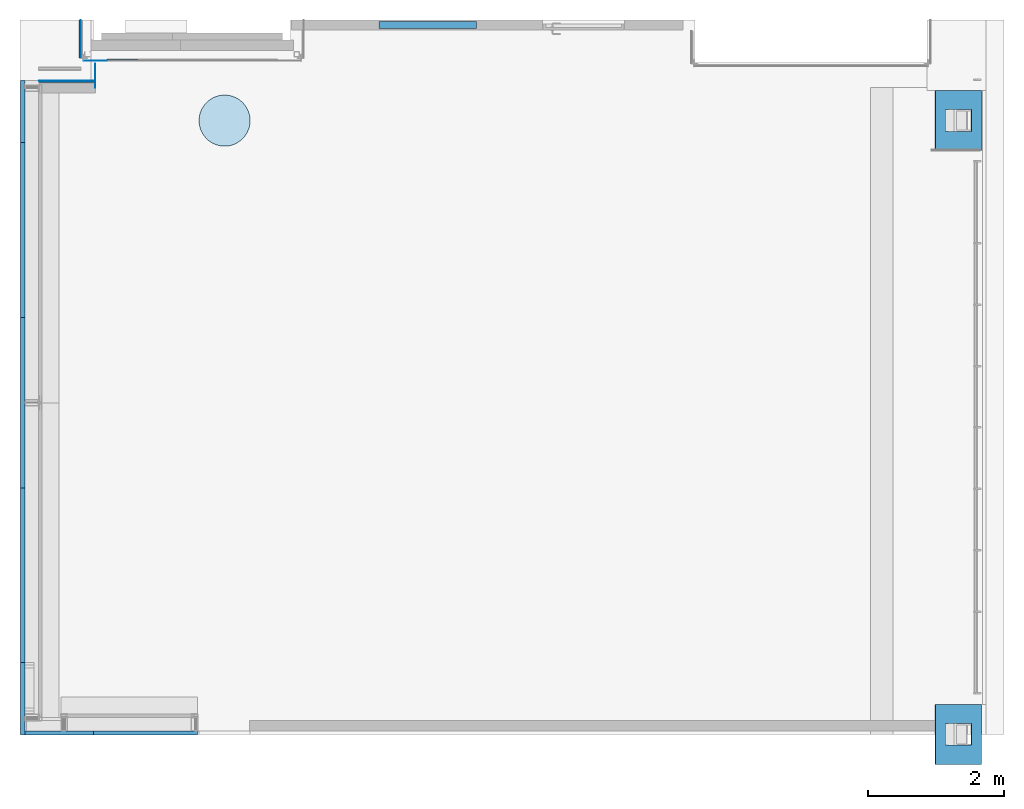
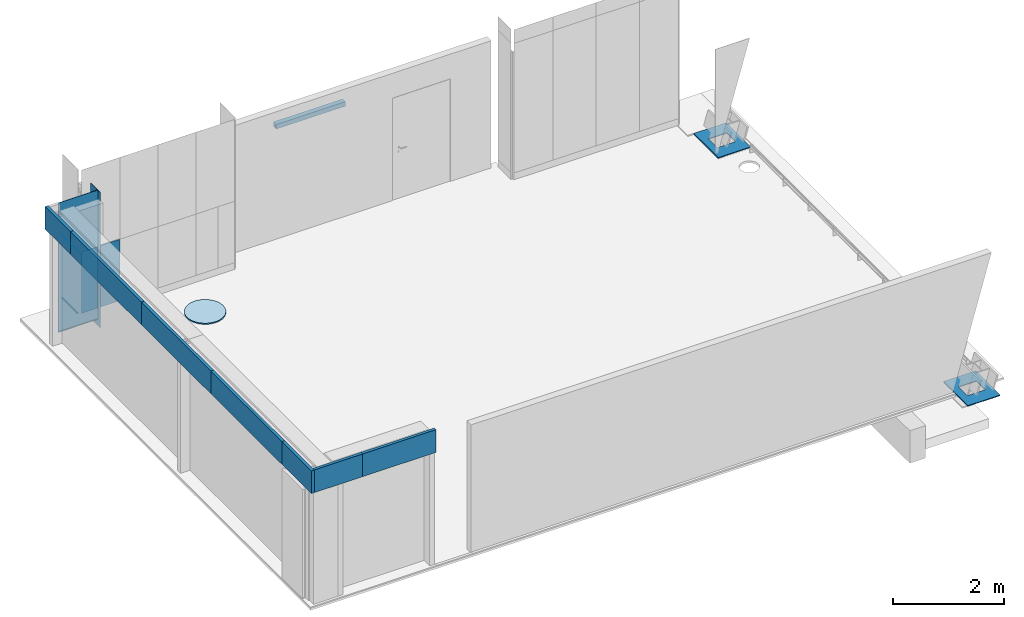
# One storey, part 4 of 14: 11 plates, 3 members, 2 columns, 1 beam, 1 slab, 23 openings, 7 elements without a shape of their own.
"""IFC2X3 building model written with IfcOpenShell, lengths in millimetres."""

from ifc_helpers import new_model, entity, si_unit, converted_unit, derived_unit, direction, frame, frame_2d, origin, origin_with_axes, origin_2d_with_axis, place, context, subcontext, project, spatial, rectangle, circle, extrude, boolean, faceted_brep, source, transform, mapped, material, layer, layer_set, layer_usage, type_object, element, aggregate, save


model = new_model("IFC2X3")

# Units and contexts
model_context = context("Model", 3, precision=0.01, world=frame((0.0, 4.29681676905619e-09, 0.0)), true_north=direction((4.01073788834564e-13, 1.0)))
plan_context = context("Plan", 3, precision=0.01, world=frame((0.0, 4.29681676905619e-09, 0.0)), true_north=direction((4.01073788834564e-13, 1.0)))
body_context = subcontext(model_context, "Body", "Model", "MODEL_VIEW")
ifc_project = project(units=[converted_unit("PLANEANGLEUNIT", "DEGREE", entity("IfcPositiveLengthMeasure", 0.0174532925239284), si_unit("PLANEANGLEUNIT", "RADIAN"), dimensions=[0, 0, 0, 0, 0, 0, 0]), si_unit("AREAUNIT", "SQUARE_METRE"), si_unit("LENGTHUNIT", "METRE", prefix="MILLI"), si_unit("MASSUNIT", "GRAM", prefix="KILO"), si_unit("POWERUNIT", "WATT"), si_unit("PRESSUREUNIT", "PASCAL"), si_unit("FORCEUNIT", "NEWTON", prefix="KILO"), si_unit("ELECTRICVOLTAGEUNIT", "VOLT"), si_unit("ELECTRICCURRENTUNIT", "AMPERE"), si_unit("THERMODYNAMICTEMPERATUREUNIT", "DEGREE_CELSIUS"), si_unit("TIMEUNIT", "SECOND"), si_unit("VOLUMEUNIT", "CUBIC_METRE"), derived_unit("LINEARVELOCITYUNIT", [(si_unit("LENGTHUNIT", "METRE"), 1), (si_unit("TIMEUNIT", "SECOND"), -1)]), derived_unit("VOLUMETRICFLOWRATEUNIT", [(si_unit("VOLUMEUNIT", "CUBIC_METRE"), 1), (si_unit("TIMEUNIT", "SECOND"), -1)]), derived_unit("THERMALTRANSMITTANCEUNIT", [(si_unit("POWERUNIT", "WATT"), 1), (si_unit("THERMODYNAMICTEMPERATUREUNIT", "KELVIN"), -1), (si_unit("AREAUNIT", "SQUARE_METRE"), -1)]), derived_unit("SOUNDPRESSUREUNIT", [(si_unit("PRESSUREUNIT", "PASCAL"), 1)])], contexts=[model_context, plan_context])

# Site, building, storey
site_placement = place(None, origin_with_axes())
site = spatial("IfcSite", under=ifc_project, at=site_placement, Name="ENGM", CompositionType="ELEMENT")
building_placement = place(site_placement, origin_with_axes())
building = spatial("IfcBuilding", under=site, at=building_placement, Name="TI", CompositionType="ELEMENT")
storey_placement = place(building_placement, frame((0.0, 0.0, 210900.0), z_axis=(0.0, 0.0, 1.0), x_axis=(1.0, 0.0, 0.0)))
storey = spatial("IfcBuildingStorey", under=building, at=storey_placement, Name="Nivå F", CompositionType="ELEMENT", Elevation=210900.0)

# Columns
ifc_material_1 = material(Name="<Unnamed>")
column_type_1 = type_object("IfcColumnType", Name="B220 - Søylefot - Primærdragere - PirNord1:B220 - Søylefot - Primærdragere - PirNord - h=470", PredefinedType="COLUMN", material=ifc_material_1)
shared_shape_1 = source(origin(), body_context, "Body", "Brep", [
    faceted_brep([(611946.295628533, 698160.163867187, 210882.0), (611567.384546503, 698160.163867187, 210882.0), (611567.384546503, 697840.163867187, 210882.0), (611946.295628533, 697840.163867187, 210882.0), (612093.304846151, 698440.163867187, 210882.0), (612093.304846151, 697560.163867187, 210882.0), (611420.375328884, 697560.163867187, 210882.0), (611420.375328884, 698440.163867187, 210882.0), (611425.198414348, 697560.163867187, 210900.0), (612098.127931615, 697560.163867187, 210900.0), (611425.198414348, 698440.163867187, 210900.0), (612098.127931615, 698440.163867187, 210900.0), (611572.207631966, 697840.163867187, 210900.0), (611951.118713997, 697840.163867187, 210900.0), (611572.207631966, 698160.163867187, 210900.0), (611951.118713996, 698160.163867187, 210900.0)], [[[0, 1, 2, 3], [4, 5, 6, 7]], [[8, 6, 5, 9]], [[4, 7, 10, 11]], [[6, 8, 10, 7]], [[2, 12, 13, 3]], [[1, 14, 12, 2]], [[14, 15, 13, 12], [8, 9, 11, 10]], [[9, 5, 4, 11]], [[0, 15, 14, 1]], [[3, 13, 15, 0]]], outer=[[False, True], [True], [True], [True], [True], [True], [False, True], [True], [True], [True]]),
])
column_1_placement = place(storey_placement, frame((0.0, 0.0, -210900.0), z_axis=(0.0, 0.0, 1.0), x_axis=(1.0, 0.0, 0.0)))
element("IfcColumn", 1, at=column_1_placement, inside=storey, type_object=column_type_1, material=ifc_material_1, Name="B220 - Søylefot - Primærdragere - PirNord1:B220 - Søylefot - Primærdragere - PirNord - h=470", ObjectType="B220 - Søylefot - Primærdragere - PirNord1:B220 - Søylefot - Primærdragere - PirNord - h=470", context=body_context, shape_type="MappedRepresentation", body=[
    mapped(shared_shape_1, transform((0.0, 0.0, 0.0), scale=1.0)),
])
column_type_2 = type_object("IfcColumnType", Name="B220 - Søylefot - Primærdragere - PirNord1:B220 - Søylefot - Primærdragere - PirNord - h=470", PredefinedType="COLUMN", material=ifc_material_1)
shared_shape_2 = source(origin(), body_context, "Body", "Brep", [
    faceted_brep([(611946.295628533, 689160.163867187, 210882.0), (611567.384546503, 689160.163867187, 210882.0), (611567.384546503, 688840.163867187, 210882.0), (611946.295628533, 688840.163867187, 210882.0), (612093.304846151, 689440.163867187, 210882.0), (612093.304846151, 688560.163867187, 210882.0), (611420.375328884, 688560.163867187, 210882.0), (611420.375328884, 689440.163867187, 210882.0), (611425.198414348, 688560.163867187, 210900.0), (612098.127931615, 688560.163867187, 210900.0), (611425.198414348, 689440.163867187, 210900.0), (612098.127931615, 689440.163867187, 210900.0), (611572.207631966, 688840.163867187, 210900.0), (611951.118713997, 688840.163867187, 210900.0), (611572.207631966, 689160.163867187, 210900.0), (611951.118713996, 689160.163867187, 210900.0)], [[[0, 1, 2, 3], [4, 5, 6, 7]], [[8, 6, 5, 9]], [[4, 7, 10, 11]], [[6, 8, 10, 7]], [[2, 12, 13, 3]], [[1, 14, 12, 2]], [[14, 15, 13, 12], [8, 9, 11, 10]], [[9, 5, 4, 11]], [[0, 15, 14, 1]], [[3, 13, 15, 0]]], outer=[[False, True], [True], [True], [True], [True], [True], [False, True], [True], [True], [True]]),
])
column_2_placement = place(storey_placement, frame((0.0, 0.0, -210900.0), z_axis=(0.0, 0.0, 1.0), x_axis=(1.0, 0.0, 0.0)))
element("IfcColumn", 2, at=column_2_placement, inside=storey, type_object=column_type_2, material=ifc_material_1, Name="B220 - Søylefot - Primærdragere - PirNord1:B220 - Søylefot - Primærdragere - PirNord - h=470", ObjectType="B220 - Søylefot - Primærdragere - PirNord1:B220 - Søylefot - Primærdragere - PirNord - h=470", context=body_context, shape_type="MappedRepresentation", body=[
    mapped(shared_shape_2, transform((0.0, 0.0, 0.0), scale=1.0)),
])

# Curtain wall, member
curtain_wall_type_1 = type_object("IfcCurtainWallType", Name="Curtain Wall:A245 - IGK - Glass Kledning", PredefinedType="NOTDEFINED")
curtain_wall_1_placement = place(storey_placement, frame((0.0, 0.0, -210900.0), z_axis=(0.0, 0.0, 1.0), x_axis=(1.0, 0.0, 0.0)))
curtain_wall_1 = element("IfcCurtainWall", 3, at=curtain_wall_1_placement, inside=storey, type_object=curtain_wall_type_1, Name="Curtain Wall:A245 - IGK - Glass Kledning", ObjectType="Curtain Wall:A245 - IGK - Glass Kledning")
ifc_material_2 = material(Name="Fuge transparent")
member_type_1 = type_object("IfcMemberType", Name="Rectangular Mullion:A241 - 10 mm fuge", PredefinedType="MULLION", material=ifc_material_2)
shared_shape_3 = source(origin(), body_context, "Body", "SweptSolid", [
    extrude(rectangle(XDim=19.9999999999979, YDim=10.0, at=origin_2d_with_axis()), frame((0.0, 10.0, -823.003222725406), z_axis=(0.0, 0.0, 1.0), x_axis=(0.0, 1.0, 0.0)), (0.0, 0.0, 1.0), 823.003222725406),
])
member_1_placement = place(curtain_wall_1_placement, frame((599102.003222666, 698584.999999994, 211055.0), z_axis=(1.0, 0.0, 0.0), x_axis=(0.0, 0.0, 1.0)))
member_1 = element("IfcMember", 4, at=member_1_placement, type_object=member_type_1, material=ifc_material_2, Name="Rectangular Mullion:A241 - 10 mm fuge", ObjectType="Rectangular Mullion:A241 - 10 mm fuge", context=body_context, shape_type="MappedRepresentation", body=[
    mapped(shared_shape_3, transform((0.0, 0.0, 0.0), scale=1.0)),
])

# Beam
ifc_material_3 = material(Name="_NSW Stål")
beam_type = type_object("IfcBeamType", Name="B223 - Bjelke - HUP:B223 - HUP - 100 x 100 x 5 mm", PredefinedType="BEAM")
beam_placement = place(storey_placement, frame((603263.006959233, 699400.499999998, 2500.0), z_axis=(0.0, 0.0, 1.0), x_axis=(1.0, 0.0, 0.0)))
element("IfcBeam", 5, at=beam_placement, inside=storey, type_object=beam_type, material=ifc_material_3, Name="B223 - Bjelke - HUP:B223 - HUP - 100 x 100 x 5 mm", ObjectType="B223 - Bjelke - HUP:B223 - HUP - 100 x 100 x 5 mm", context=body_context, shape_type="SweptSolid", body=[
    boolean("DIFFERENCE", extrude(rectangle(XDim=99.9999999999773, YDim=100.000000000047, at=origin_2d_with_axis()), frame((0.0, 0.0, -50.0), z_axis=(1.0, 0.0, 0.0), x_axis=(0.0, 0.0, -1.0)), (0.0, 0.0, 1.0), 1434.98989665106), extrude(rectangle(XDim=89.9999999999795, YDim=90.0000000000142, at=frame_2d((6.93027857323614e-11, 1.732658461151e-11), x_axis=(0.0, 1.0))), frame((0.0, 0.0, -50.0), z_axis=(1.0, 0.0, 0.0), x_axis=(0.0, -1.0, 0.0)), (0.0, 0.0, 1.0), 1434.98989665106)),
])

# Curtain wall, member
curtain_wall_type_2 = type_object("IfcCurtainWallType", Name="Curtain Wall:A245 - IMK - Metal Kledning", PredefinedType="NOTDEFINED")
curtain_wall_2_placement = place(storey_placement, frame((0.0, 0.0, -210900.0), z_axis=(0.0, 0.0, 1.0), x_axis=(1.0, 0.0, 0.0)))
curtain_wall_2 = element("IfcCurtainWall", 6, at=curtain_wall_2_placement, inside=storey, type_object=curtain_wall_type_2, Name="Curtain Wall:A245 - IMK - Metal Kledning", ObjectType="Curtain Wall:A245 - IMK - Metal Kledning")
member_type_2 = type_object("IfcMemberType", Name="Rectangular Mullion:A241 - 4 mm fuge - til venstre", PredefinedType="MULLION", material=ifc_material_2)
member_2_placement = place(curtain_wall_2_placement, frame((598892.513867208, 699797.999999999, 212400.0), z_axis=(0.0, 1.0, 0.0), x_axis=(0.0, 0.0, 1.0)))
member_2 = element("IfcMember", 7, at=member_2_placement, type_object=member_type_2, Name="Rectangular Mullion:A241 - 4 mm fuge - til venstre", ObjectType="Rectangular Mullion:A241 - 4 mm fuge - til venstre", context=body_context, shape_type="Brep", body=[
    faceted_brep([(4.0, -2.9999999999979, -322.499999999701), (4.0, 0.0, -322.499999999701), (4.0, 0.0, -879.000000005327), (4.0, -2.9999999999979, -879.000000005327), (-4.44089209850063e-16, 0.0, -322.499999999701), (-4.44089209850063e-16, 0.0, -879.000000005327), (-4.44089209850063e-16, -2.9999999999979, -322.499999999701), (-4.44089209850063e-16, -2.9999999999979, -879.000000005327)], [[[0, 1, 2, 3]], [[1, 4, 5, 2]], [[4, 6, 7, 5]], [[6, 0, 3, 7]], [[3, 2, 5, 7]], [[6, 4, 1, 0]]], orient=[[False], [False], [False], [False], [False], [False]]),
])
aggregate(curtain_wall_2, [member_2])

curtain_wall_3_placement = place(storey_placement, frame((0.0, 0.0, -210900.0), z_axis=(0.0, 0.0, 1.0), x_axis=(1.0, 0.0, 0.0)))
curtain_wall_3 = element("IfcCurtainWall", 8, at=curtain_wall_3_placement, inside=storey, type_object=curtain_wall_type_2, Name="Curtain Wall:A245 - IMK - Metal Kledning", ObjectType="Curtain Wall:A245 - IMK - Metal Kledning")
member_type_3 = type_object("IfcMemberType", Name="Rectangular Mullion:A241 - 10 mm fuge", PredefinedType="MULLION", material=ifc_material_2)
member_3_placement = place(curtain_wall_3_placement, frame((598892.513867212, 698918.99036364, 211050.0), z_axis=(0.0, -1.0, 0.0), x_axis=(0.0, 0.0, 1.0)))
member_3 = element("IfcMember", 9, at=member_3_placement, type_object=member_type_3, Name="Rectangular Mullion:A241 - 10 mm fuge", ObjectType="Rectangular Mullion:A241 - 10 mm fuge", context=body_context, shape_type="Brep", body=[
    faceted_brep([(0.0, 1.04449782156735e-12, -556.509636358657), (-10.0, 1.04449782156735e-12, -556.509636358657), (-10.0, 1.04449782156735e-12, 0.0), (0.0, 1.04449782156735e-12, 0.0), (0.0, 19.999999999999, -556.509636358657), (0.0, 19.999999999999, 0.0), (-10.0, 19.999999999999, -556.509636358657), (-10.0, 19.999999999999, 0.0)], [[[0, 1, 2, 3]], [[4, 0, 3, 5]], [[6, 4, 5, 7]], [[1, 6, 7, 2]], [[3, 2, 7, 5]], [[4, 6, 1, 0]]], orient=[[False], [False], [False], [False], [False], [False]]),
])
aggregate(curtain_wall_3, [member_3])

# Curtain wall, plates
curtain_wall_4_placement = place(storey_placement, frame((0.0, 0.0, -210900.0), z_axis=(0.0, 0.0, 1.0), x_axis=(1.0, 0.0, 0.0)))
curtain_wall_4 = element("IfcCurtainWall", 10, at=curtain_wall_4_placement, inside=storey, type_object=curtain_wall_type_2, Name="Curtain Wall:A245 - IMK - Metal Kledning", ObjectType="Curtain Wall:A245 - IMK - Metal Kledning")
ifc_material_4 = material(Name="T2_Metallkledning_Laserskåret")
plate_type_1 = type_object("IfcPlateType", Name="System Panel:A245 - KL-M02 - Veggkledning aluminium laserskåret mønster", PredefinedType="CURTAIN_PANEL", material=ifc_material_4)
shared_shape_4 = source(origin(), body_context, "Body", "SweptSolid", [
    extrude(rectangle(XDim=3.0, YDim=339.999999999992, at=origin_2d_with_axis()), frame((0.0, -1.5, 0.0), z_axis=(0.0, 0.0, 1.0), x_axis=(0.0, 1.0, 0.0)), (0.0, 0.0, 1.0), 1350.00000000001),
])
plate_1_placement = place(curtain_wall_4_placement, frame((599105.003222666, 698877.999999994, 211050.0), z_axis=(0.0, 0.0, 1.0), x_axis=(1.0, 0.0, 0.0)))
plate_1 = element("IfcPlate", 11, at=plate_1_placement, type_object=plate_type_1, material=ifc_material_4, Name="System Panel:A245 - KL-M02 - Veggkledning aluminium laserskåret mønster", ObjectType="System Panel:A245 - KL-M02 - Veggkledning aluminium laserskåret mønster", context=body_context, shape_type="MappedRepresentation", body=[
    mapped(shared_shape_4, transform((0.0, 0.0, 0.0), scale=1.0)),
])
ifc_material_5 = material(Name="T2_Ventilasjonsrist")
plate_type_2 = type_object("IfcPlateType", Name="System Panel:A245 - KL-M07 - Veggkledning ventilasjonsrist tekniske sjakter", PredefinedType="CURTAIN_PANEL", material=ifc_material_5)
shared_shape_5 = source(origin(), body_context, "Body", "SweptSolid", [
    extrude(rectangle(XDim=30.0, YDim=455.000000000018, at=origin_2d_with_axis()), frame((0.0, 12.0, 0.0), z_axis=(0.0, 0.0, 1.0), x_axis=(0.0, 1.0, 0.0)), (0.0, 0.0, 1.0), 1350.00000000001),
])
plate_2_placement = place(curtain_wall_4_placement, frame((599502.503222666, 698877.999999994, 211050.0), z_axis=(0.0, 0.0, 1.0), x_axis=(1.0, 0.0, 0.0)))
plate_2 = element("IfcPlate", 12, at=plate_2_placement, type_object=plate_type_2, material=ifc_material_5, Name="System Panel:A245 - KL-M07 - Veggkledning ventilasjonsrist tekniske sjakter", ObjectType="System Panel:A245 - KL-M07 - Veggkledning ventilasjonsrist tekniske sjakter", context=body_context, shape_type="MappedRepresentation", body=[
    mapped(shared_shape_5, transform((0.0, 0.0, 0.0), scale=1.0)),
])
aggregate(curtain_wall_4, [plate_1, plate_2])

# Plate
ifc_material_6 = material(Name="Glasskledning, silketrykket(1)")
plate_type_3 = type_object("IfcPlateType", Name="System Panel:A245 - KL-G07.3 - Veggkledning glasspanel", PredefinedType="CURTAIN_PANEL", material=ifc_material_6)
shared_shape_6 = source(origin(), body_context, "Body", "SweptSolid", [
    extrude(rectangle(XDim=10.0, YDim=823.003222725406, at=origin_2d_with_axis()), frame((0.0, -5.0, 0.0), z_axis=(0.0, 0.0, 1.0), x_axis=(0.0, 1.0, 0.0)), (0.0, 0.0, 1.0), 2825.99999999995),
])
plate_3_placement = place(curtain_wall_1_placement, frame((598690.501611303, 698584.999999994, 211060.0), z_axis=(0.0, 0.0, 1.0), x_axis=(1.0, 0.0, 0.0)))
plate_3 = element("IfcPlate", 13, at=plate_3_placement, type_object=plate_type_3, material=ifc_material_6, Name="System Panel:A245 - KL-G07.3 - Veggkledning glasspanel", ObjectType="System Panel:A245 - KL-G07.3 - Veggkledning glasspanel", context=body_context, shape_type="MappedRepresentation", body=[
    mapped(shared_shape_6, transform((0.0, 0.0, 0.0), scale=1.0)),
])

aggregate(curtain_wall_1, [member_1, plate_3])

# Curtain wall, plates
curtain_wall_5_placement = place(storey_placement, frame((0.0, 0.0, -210900.0), z_axis=(0.0, 0.0, 1.0), x_axis=(1.0, 0.0, 0.0)))
curtain_wall_5 = element("IfcCurtainWall", 14, at=curtain_wall_5_placement, inside=storey, type_object=curtain_wall_type_2, Name="Curtain Wall:A245 - IMK - Metal Kledning", ObjectType="Curtain Wall:A245 - IMK - Metal Kledning")
ifc_material_7 = material(Name="Metal - Preget plate")
plate_type_4 = type_object("IfcPlateType", Name="System Panel:A245 - KL- X - butikkfasade avklares", PredefinedType="CURTAIN_PANEL", material=ifc_material_7)
shared_shape_7 = source(origin(), body_context, "Body", "SweptSolid", [
    extrude(rectangle(XDim=60.0, YDim=1065.48354335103, at=frame_2d((1.77635683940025e-15, 0.0), x_axis=(1.0, 0.0))), frame((0.0, -30.0, 0.0), z_axis=(0.0, 0.0, 1.0), x_axis=(0.0, 1.0, 0.0)), (0.0, 0.0, 1.0), 500.000000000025),
])
plate_4_placement = place(curtain_wall_5_placement, frame((598009.981563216, 689522.747013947, 213400.0), z_axis=(0.0, 0.0, 1.0), x_axis=(0.0, 1.0, 0.0)))
plate_4 = element("IfcPlate", 15, at=plate_4_placement, type_object=plate_type_4, material=ifc_material_7, Name="System Panel:A245 - KL- X - butikkfasade avklares", ObjectType="System Panel:A245 - KL- X - butikkfasade avklares", context=body_context, shape_type="MappedRepresentation", body=[
    mapped(shared_shape_7, transform((0.0, 0.0, 0.0), scale=1.0)),
])
plate_type_5 = type_object("IfcPlateType", Name="System Panel:A245 - KL- X - butikkfasade avklares", PredefinedType="CURTAIN_PANEL", material=ifc_material_7)
shared_shape_8 = source(origin(), body_context, "Body", "SweptSolid", [
    extrude(rectangle(XDim=60.0, YDim=2559.99999999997, at=frame_2d((-3.5527136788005e-15, 0.0), x_axis=(1.0, 0.0))), frame((0.0, -30.0, 0.0), z_axis=(0.0, 0.0, 1.0), x_axis=(0.0, 1.0, 0.0)), (0.0, 0.0, 1.0), 500.000000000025),
])
plate_5_placement = place(curtain_wall_5_placement, frame((598009.981563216, 691335.488785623, 213400.0), z_axis=(0.0, 0.0, 1.0), x_axis=(0.0, 1.0, 0.0)))
plate_5 = element("IfcPlate", 16, at=plate_5_placement, type_object=plate_type_5, material=ifc_material_7, Name="System Panel:A245 - KL- X - butikkfasade avklares", ObjectType="System Panel:A245 - KL- X - butikkfasade avklares", context=body_context, shape_type="MappedRepresentation", body=[
    mapped(shared_shape_8, transform((0.0, 0.0, 0.0), scale=1.0)),
])
plate_6_placement = place(curtain_wall_5_placement, frame((598009.981563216, 696395.488785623, 213400.0), z_axis=(0.0, 0.0, 1.0), x_axis=(0.0, 1.0, 0.0)))
plate_6 = element("IfcPlate", 17, at=plate_6_placement, type_object=plate_type_5, material=ifc_material_7, Name="System Panel:A245 - KL- X - butikkfasade avklares", ObjectType="System Panel:A245 - KL- X - butikkfasade avklares", context=body_context, shape_type="MappedRepresentation", body=[
    mapped(shared_shape_8, transform((0.0, 0.0, 0.0), scale=1.0)),
])
plate_type_6 = type_object("IfcPlateType", Name="System Panel:A245 - KL- X - butikkfasade avklares", PredefinedType="CURTAIN_PANEL", material=ifc_material_7)
shared_shape_9 = source(origin(), body_context, "Body", "SweptSolid", [
    extrude(rectangle(XDim=60.0, YDim=2500.00000000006, at=origin_2d_with_axis()), frame((0.0, -30.0, 0.0), z_axis=(0.0, 0.0, 1.0), x_axis=(0.0, 1.0, 0.0)), (0.0, 0.0, 1.0), 500.000000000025),
])
plate_7_placement = place(curtain_wall_5_placement, frame((598009.981563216, 693865.488785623, 213400.0), z_axis=(0.0, 0.0, 1.0), x_axis=(0.0, 1.0, 0.0)))
plate_7 = element("IfcPlate", 18, at=plate_7_placement, type_object=plate_type_6, material=ifc_material_7, Name="System Panel:A245 - KL- X - butikkfasade avklares", ObjectType="System Panel:A245 - KL- X - butikkfasade avklares", context=body_context, shape_type="MappedRepresentation", body=[
    mapped(shared_shape_9, transform((0.0, 0.0, 0.0), scale=1.0)),
])
plate_type_7 = type_object("IfcPlateType", Name="System Panel:A245 - KL- X - butikkfasade avklares", PredefinedType="CURTAIN_PANEL", material=ifc_material_7)
shared_shape_10 = source(origin(), body_context, "Body", "SweptSolid", [
    extrude(rectangle(XDim=60.0, YDim=909.511214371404, at=origin_2d_with_axis()), frame((0.0, -30.0, 0.0), z_axis=(0.0, 0.0, 1.0), x_axis=(0.0, 1.0, 0.0)), (0.0, 0.0, 1.0), 500.000000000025),
])
plate_8_placement = place(curtain_wall_5_placement, frame((598009.981563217, 698130.244392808, 213400.0), z_axis=(0.0, 0.0, 1.0), x_axis=(0.0, 1.0, 0.0)))
plate_8 = element("IfcPlate", 19, at=plate_8_placement, type_object=plate_type_7, material=ifc_material_7, Name="System Panel:A245 - KL- X - butikkfasade avklares", ObjectType="System Panel:A245 - KL- X - butikkfasade avklares", context=body_context, shape_type="MappedRepresentation", body=[
    mapped(shared_shape_10, transform((0.0, 0.0, 0.0), scale=1.0)),
])
aggregate(curtain_wall_5, [plate_4, plate_5, plate_7, plate_6, plate_8])

curtain_wall_6_placement = place(storey_placement, frame((0.0, 0.0, -210900.0), z_axis=(0.0, 0.0, 1.0), x_axis=(1.0, 0.0, 0.0)))
curtain_wall_6 = element("IfcCurtainWall", 20, at=curtain_wall_6_placement, inside=storey, type_object=curtain_wall_type_2, Name="Curtain Wall:A245 - IMK - Metal Kledning", ObjectType="Curtain Wall:A245 - IMK - Metal Kledning")
plate_type_8 = type_object("IfcPlateType", Name="System Panel:A245 - KL- X - butikkfasade avklares", PredefinedType="CURTAIN_PANEL", material=ifc_material_7)
shared_shape_11 = source(origin(), body_context, "Body", "SweptSolid", [
    extrude(rectangle(XDim=60.0, YDim=1004.98156328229, at=origin_2d_with_axis()), frame((0.0, 30.0, 0.0), z_axis=(0.0, 0.0, 1.0), x_axis=(0.0, 1.0, 0.0)), (0.0, 0.0, 1.0), 500.000000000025),
])
plate_9_placement = place(curtain_wall_6_placement, frame((598572.490781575, 688990.005242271, 213400.0), z_axis=(0.0, 0.0, 1.0), x_axis=(1.0, 0.0, 0.0)))
plate_9 = element("IfcPlate", 21, at=plate_9_placement, type_object=plate_type_8, material=ifc_material_7, Name="System Panel:A245 - KL- X - butikkfasade avklares", ObjectType="System Panel:A245 - KL- X - butikkfasade avklares", context=body_context, shape_type="MappedRepresentation", body=[
    mapped(shared_shape_11, transform((0.0, 0.0, 0.0), scale=1.0)),
])
plate_type_9 = type_object("IfcPlateType", Name="System Panel:A245 - KL- X - butikkfasade avklares", PredefinedType="CURTAIN_PANEL", material=ifc_material_7)
shared_shape_12 = source(origin(), body_context, "Body", "SweptSolid", [
    extrude(rectangle(XDim=60.0, YDim=1530.01843678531, at=origin_2d_with_axis()), frame((0.0, 30.0, 0.0), z_axis=(0.0, 0.0, 1.0), x_axis=(0.0, 1.0, 0.0)), (0.0, 0.0, 1.0), 500.000000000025),
])
plate_10_placement = place(curtain_wall_6_placement, frame((599839.990781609, 688990.005242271, 213400.0), z_axis=(0.0, 0.0, 1.0), x_axis=(1.0, 0.0, 0.0)))
plate_10 = element("IfcPlate", 22, at=plate_10_placement, type_object=plate_type_9, material=ifc_material_7, Name="System Panel:A245 - KL- X - butikkfasade avklares", ObjectType="System Panel:A245 - KL- X - butikkfasade avklares", context=body_context, shape_type="MappedRepresentation", body=[
    mapped(shared_shape_12, transform((0.0, 0.0, 0.0), scale=1.0)),
])
aggregate(curtain_wall_6, [plate_9, plate_10])

# Curtain wall, plate
curtain_wall_7_placement = place(storey_placement, frame((0.0, 0.0, -210900.0), z_axis=(0.0, 0.0, 1.0), x_axis=(1.0, 0.0, 0.0)))
curtain_wall_7 = element("IfcCurtainWall", 23, at=curtain_wall_7_placement, inside=storey, type_object=curtain_wall_type_2, Name="Curtain Wall:A245 - IMK - Metal Kledning", ObjectType="Curtain Wall:A245 - IMK - Metal Kledning")
ifc_material_8 = material(Name="T2_Metal_Aluminium")
plate_type_10 = type_object("IfcPlateType", Name="System Panel:A245 - KL-M18 - Veggkledning metallplate 18 plan RAL 9007", PredefinedType="CURTAIN_PANEL", material=ifc_material_8)
shared_shape_13 = source(origin(), body_context, "Body", "SweptSolid", [
    extrude(rectangle(XDim=3.0, YDim=350.000000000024, at=origin_2d_with_axis()), frame((0.0, -1.5, 0.0), z_axis=(0.0, 0.0, 1.0), x_axis=(0.0, 1.0, 0.0)), (0.0, 0.0, 1.0), 2985.99999999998),
])
plate_11_placement = place(curtain_wall_7_placement, frame((599102.003222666, 698659.999999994, 210900.0), z_axis=(0.0, 0.0, 1.0), x_axis=(0.0, 1.0, 0.0)))
plate_11 = element("IfcPlate", 24, at=plate_11_placement, type_object=plate_type_10, material=ifc_material_8, Name="System Panel:A245 - KL-M18 - Veggkledning metallplate 18 plan RAL 9007", ObjectType="System Panel:A245 - KL-M18 - Veggkledning metallplate 18 plan RAL 9007", context=body_context, shape_type="MappedRepresentation", body=[
    mapped(shared_shape_13, transform((0.0, 0.0, 0.0), scale=1.0)),
])
aggregate(curtain_wall_7, [plate_11])

# Slab, openings
ifc_material_9 = material(Name="T2_Tregulv Gulvplaner")
ifc_layer = layer(ifc_material_9, 25.0)
ifc_layer_set = layer_set([ifc_layer], Name="Floor:A254 - Tregulv inkl. lim - 25 mm")
ifc_layer_usage = layer_usage(ifc_layer_set, "AXIS3", "POSITIVE", 0.0)
slab_type = type_object("IfcSlabType", Name="Floor:A254 - Tregulv inkl. lim - 25 mm", PredefinedType="FLOOR", material=ifc_layer_set)
slab_placement = place(storey_placement, frame((558471.991443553, 560500.0, -25.0), z_axis=(0.0, 0.0, 1.0), x_axis=(1.0, 0.0, 0.0)))
slab = element("IfcSlab", 25, at=slab_placement, inside=storey, type_object=slab_type, material=ifc_layer_usage, Name="Floor:A254 - Tregulv inkl. lim - 25 mm:2", ObjectType="Floor:A254 - Tregulv inkl. lim - 25 mm", PredefinedType="FLOOR", context=body_context, shape_type="SweptSolid", body=[
    extrude(circle(Radius=374.999999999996, at=frame_2d((-9000.0, 27830.0), x_axis=(1.0, 0.0))), frame((33528.0085564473, 109670.0, 25.0), z_axis=(0.0, 0.0, -1.0), x_axis=(-1.0, 0.0, 0.0)), (0.0, 0.0, 1.0), 25.0000000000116),
])
opening_1_placement = place(slab_placement, origin_with_axes())
element("IfcOpeningElement", 26, at=opening_1_placement, cuts=slab, ObjectType="Opening", context=body_context, shape_type="SweptSolid", body=[
    extrude(circle(Radius=162.5, at=origin_2d_with_axis()), frame((53313.0085564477, 183440.163867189, -115.0)), (0.0, 0.0, 1.0), 139.999999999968),
])
opening_2_placement = place(slab_placement, origin_with_axes())
element("IfcOpeningElement", 27, at=opening_2_placement, cuts=slab, ObjectType="Opening", context=body_context, shape_type="SweptSolid", body=[
    extrude(circle(Radius=162.5, at=origin_2d_with_axis()), frame((13293.0085564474, 55560.0, -115.0)), (0.0, 0.0, 1.0), 139.999999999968),
])
opening_3_placement = place(slab_placement, origin_with_axes())
element("IfcOpeningElement", 28, at=opening_3_placement, cuts=slab, ObjectType="Opening", context=body_context, shape_type="SweptSolid", body=[
    extrude(circle(Radius=162.5, at=origin_2d_with_axis()), frame((12284.4174641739, 46560.0, -115.0)), (0.0, 0.0, 1.0), 139.999999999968),
])
opening_4_placement = place(slab_placement, origin_with_axes())
element("IfcOpeningElement", 29, at=opening_4_placement, cuts=slab, ObjectType="Opening", context=body_context, shape_type="SweptSolid", body=[
    extrude(circle(Radius=162.5, at=origin_2d_with_axis()), frame((10900.915433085, 37560.0, -115.0)), (0.0, 0.0, 1.0), 139.999999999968),
])
opening_5_placement = place(slab_placement, origin_with_axes())
element("IfcOpeningElement", 30, at=opening_5_placement, cuts=slab, ObjectType="Opening", context=body_context, shape_type="SweptSolid", body=[
    extrude(circle(Radius=162.5, at=origin_2d_with_axis()), frame((10900.9154330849, 39439.7765362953, -115.0)), (0.0, 0.0, 1.0), 139.999999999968),
])
opening_6_placement = place(slab_placement, origin_with_axes())
element("IfcOpeningElement", 31, at=opening_6_placement, cuts=slab, ObjectType="Opening", context=body_context, shape_type="SweptSolid", body=[
    extrude(circle(Radius=162.5, at=origin_2d_with_axis()), frame((8650.54038115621, 26560.0, -115.0)), (0.0, 0.0, 1.0), 139.999999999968),
])
opening_7_placement = place(slab_placement, origin_with_axes())
element("IfcOpeningElement", 32, at=opening_7_placement, cuts=slab, ObjectType="Opening", context=body_context, shape_type="SweptSolid", body=[
    extrude(circle(Radius=162.5, at=origin_2d_with_axis()), frame((5307.96615262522, 14060.0, -115.0)), (0.0, 0.0, 1.0), 139.999999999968),
])
opening_8_placement = place(slab_placement, origin_with_axes())
element("IfcOpeningElement", 33, at=opening_8_placement, cuts=slab, ObjectType="Opening", context=body_context, shape_type="SweptSolid", body=[
    extrude(circle(Radius=162.5, at=origin_2d_with_axis()), frame((61748.3099866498, 14060.1827380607, -115.0), z_axis=(0.0, 0.0, 1.0), x_axis=(-1.0, 0.0, 0.0)), (0.0, 0.0, 1.0), 139.999999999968),
])
opening_9_placement = place(slab_placement, origin_with_axes())
element("IfcOpeningElement", 34, at=opening_9_placement, cuts=slab, ObjectType="Opening", context=body_context, shape_type="SweptSolid", body=[
    extrude(circle(Radius=162.5, at=origin_2d_with_axis()), frame((58405.476014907, 26560.0, -115.0), z_axis=(0.0, 0.0, 1.0), x_axis=(-1.0, 0.0, 0.0)), (0.0, 0.0, 1.0), 139.999999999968),
])
opening_10_placement = place(slab_placement, origin_with_axes())
element("IfcOpeningElement", 35, at=opening_10_placement, cuts=slab, ObjectType="Opening", context=body_context, shape_type="SweptSolid", body=[
    extrude(circle(Radius=162.5, at=origin_2d_with_axis()), frame((56155.1009629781, 37560.0, -115.0), z_axis=(0.0, 0.0, 1.0), x_axis=(-1.0, 0.0, 0.0)), (0.0, 0.0, 1.0), 139.999999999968),
])
opening_11_placement = place(slab_placement, origin_with_axes())
element("IfcOpeningElement", 36, at=opening_11_placement, cuts=slab, ObjectType="Opening", context=body_context, shape_type="SweptSolid", body=[
    extrude(circle(Radius=162.5, at=origin_2d_with_axis()), frame((54771.5989318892, 46560.0, -115.0), z_axis=(0.0, 0.0, 1.0), x_axis=(-1.0, 0.0, 0.0)), (0.0, 0.0, 1.0), 139.999999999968),
])
opening_12_placement = place(slab_placement, origin_with_axes())
element("IfcOpeningElement", 37, at=opening_12_placement, cuts=slab, ObjectType="Opening", context=body_context, shape_type="SweptSolid", body=[
    extrude(circle(Radius=162.5, at=origin_2d_with_axis()), frame((53762.5130136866, 55560.0, -115.0), z_axis=(0.0, 0.0, 1.0), x_axis=(-1.0, 0.0, 0.0)), (0.0, 0.0, 1.0), 139.999999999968),
])
opening_13_placement = place(slab_placement, origin_with_axes())
element("IfcOpeningElement", 38, at=opening_13_placement, cuts=slab, ObjectType="Opening", context=body_context, shape_type="SweptSolid", body=[
    extrude(circle(Radius=162.5, at=origin_2d_with_axis()), frame((13293.0085564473, 57439.7765362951, -115.0)), (0.0, 0.0, 1.0), 139.999999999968),
])
opening_14_placement = place(slab_placement, origin_with_axes())
element("IfcOpeningElement", 39, at=opening_14_placement, cuts=slab, ObjectType="Opening", context=body_context, shape_type="SweptSolid", body=[
    extrude(circle(Radius=162.5, at=origin_2d_with_axis()), frame((12284.4174641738, 48439.7765362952, -115.0)), (0.0, 0.0, 1.0), 139.999999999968),
])
opening_15_placement = place(slab_placement, origin_with_axes())
element("IfcOpeningElement", 40, at=opening_15_placement, cuts=slab, ObjectType="Opening", context=body_context, shape_type="SweptSolid", body=[
    extrude(circle(Radius=162.5, at=origin_2d_with_axis()), frame((8650.54038115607, 28439.7765362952, -115.0)), (0.0, 0.0, 1.0), 139.999999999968),
])
opening_16_placement = place(slab_placement, origin_with_axes())
element("IfcOpeningElement", 41, at=opening_16_placement, cuts=slab, ObjectType="Opening", context=body_context, shape_type="SweptSolid", body=[
    extrude(circle(Radius=162.5, at=origin_2d_with_axis()), frame((5307.96615262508, 15939.7765362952, -115.0)), (0.0, 0.0, 1.0), 139.999999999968),
])
opening_17_placement = place(slab_placement, origin_with_axes())
element("IfcOpeningElement", 42, at=opening_17_placement, cuts=slab, ObjectType="Opening", context=body_context, shape_type="SweptSolid", body=[
    extrude(circle(Radius=162.5, at=origin_2d_with_axis()), frame((61748.30998665, 15939.9592743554, -115.0), z_axis=(0.0, 0.0, 1.0), x_axis=(-1.0, 0.0, 0.0)), (0.0, 0.0, 1.0), 139.999999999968),
])
opening_18_placement = place(slab_placement, origin_with_axes())
element("IfcOpeningElement", 43, at=opening_18_placement, cuts=slab, ObjectType="Opening", context=body_context, shape_type="SweptSolid", body=[
    extrude(circle(Radius=162.5, at=origin_2d_with_axis()), frame((58405.4760149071, 28439.7765362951, -115.0), z_axis=(0.0, 0.0, 1.0), x_axis=(-1.0, 0.0, 0.0)), (0.0, 0.0, 1.0), 139.999999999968),
])
opening_19_placement = place(slab_placement, origin_with_axes())
element("IfcOpeningElement", 44, at=opening_19_placement, cuts=slab, ObjectType="Opening", context=body_context, shape_type="SweptSolid", body=[
    extrude(circle(Radius=162.5, at=origin_2d_with_axis()), frame((56155.1009629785, 39439.7765362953, -115.0), z_axis=(0.0, 0.0, 1.0), x_axis=(-1.0, 0.0, 0.0)), (0.0, 0.0, 1.0), 139.999999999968),
])
opening_20_placement = place(slab_placement, origin_with_axes())
element("IfcOpeningElement", 45, at=opening_20_placement, cuts=slab, ObjectType="Opening", context=body_context, shape_type="SweptSolid", body=[
    extrude(circle(Radius=162.5, at=origin_2d_with_axis()), frame((54771.5989318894, 48439.7765362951, -115.0), z_axis=(0.0, 0.0, 1.0), x_axis=(-1.0, 0.0, 0.0)), (0.0, 0.0, 1.0), 139.999999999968),
])
opening_21_placement = place(slab_placement, origin_with_axes())
element("IfcOpeningElement", 46, at=opening_21_placement, cuts=slab, ObjectType="Opening", context=body_context, shape_type="SweptSolid", body=[
    extrude(circle(Radius=162.5, at=origin_2d_with_axis()), frame((53762.5130136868, 57439.7765362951, -115.0), z_axis=(0.0, 0.0, 1.0), x_axis=(-1.0, 0.0, 0.0)), (0.0, 0.0, 1.0), 139.999999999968),
])
opening_22_placement = place(slab_placement, origin_with_axes())
element("IfcOpeningElement", 47, at=opening_22_placement, cuts=slab, ObjectType="Opening", context=body_context, shape_type="SweptSolid", body=[
    extrude(circle(Radius=142.5, at=origin_2d_with_axis()), frame((972.86602031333, 1439.77653629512, -115.0)), (0.0, 0.0, 1.0), 139.999999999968),
])
opening_23_placement = place(slab_placement, origin_with_axes())
element("IfcOpeningElement", 48, at=opening_23_placement, cuts=slab, ObjectType="Opening", context=body_context, shape_type="SweptSolid", body=[
    extrude(circle(Radius=142.5, at=origin_2d_with_axis()), frame((66083.1510925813, 1439.77653629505, -115.0), z_axis=(0.0, 0.0, 1.0), x_axis=(-1.0, 0.0, 0.0)), (0.0, 0.0, 1.0), 139.999999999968),
])

save(model, "model.ifc")
